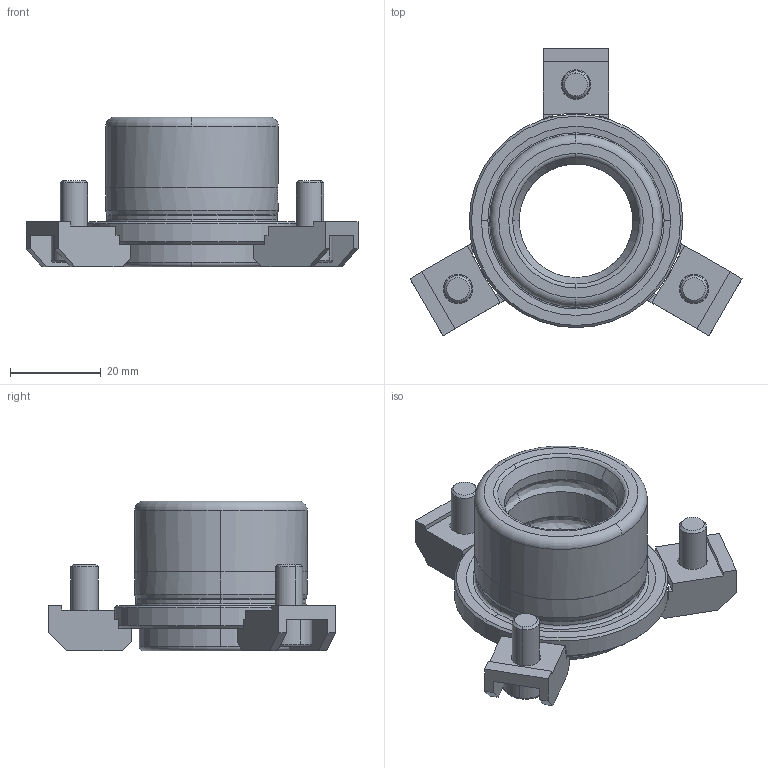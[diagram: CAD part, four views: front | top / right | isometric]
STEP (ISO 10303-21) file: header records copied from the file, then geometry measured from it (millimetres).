
FILE_DESCRIPTION((''),'2;1');
FILE_NAME('B12_025_010.stp','2008-11-04T11:48:53',(''),(''),'Mechanical Desktop 2009','Mechanical Desktop 2009',', , ');
FILE_SCHEMA(('CONFIG_CONTROL_DESIGN'));
Length unit declared in the file: millimetre
Products named in the file (2): Product; blmdl1
Assembly tree (1 placements, depth 2):
  Product
    blmdl1
Bounding box: 73.07 x 63.28 x 33 mm (x, y, z)
Volume: 27025.2 mm3; surface area: 14023.8 mm2
Topology: 7 solids, 7 shells, 196 faces, 514 edges, 338 vertices
Faces by surface type: plane 104, cylinder 47, cone 16, bspline 15, torus 14
Entity records: 7110 total; most frequent: CARTESIAN_POINT 2035, DIRECTION 1072, ORIENTED_EDGE 1028, EDGE_CURVE 514, AXIS2_PLACEMENT_3D 385, VERTEX_POINT 338, VECTOR 302, LINE 302
